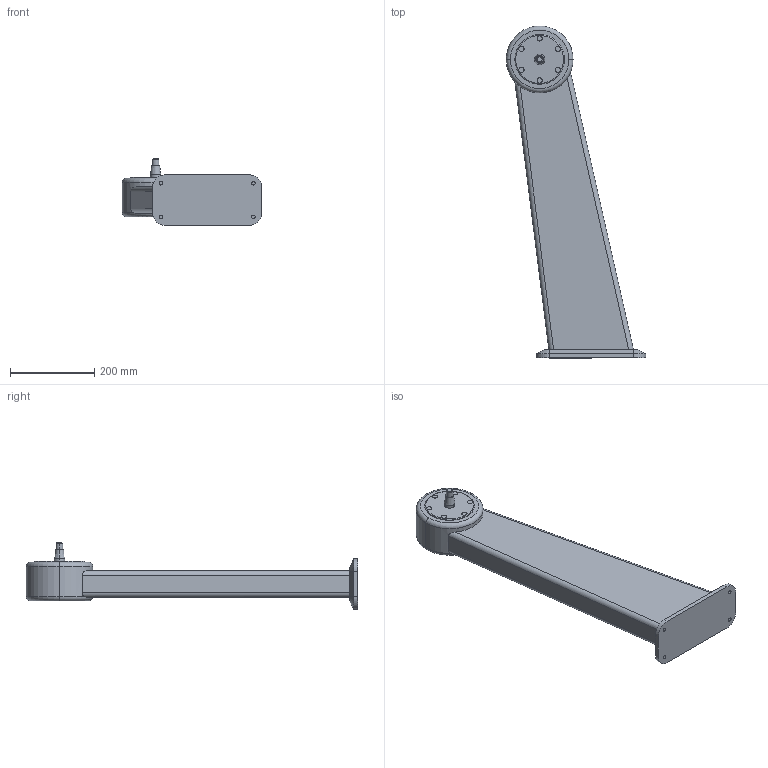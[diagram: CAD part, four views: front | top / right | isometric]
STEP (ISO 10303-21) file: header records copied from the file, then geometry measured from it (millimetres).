
FILE_DESCRIPTION (( 'STEP AP214' ), '1' );
FILE_NAME ('WP700_H710_+10.STEP', '2014-08-14T09:52:11', ( '' ), ( '' ), 'SwSTEP 2.0', 'SolidWorks 2014', '' );
FILE_SCHEMA (( 'AUTOMOTIVE_DESIGN' ));
Length unit declared in the file: millimetre
Products named in the file (1): WP700_H710_+10
Bounding box: 332.03 x 789.5 x 158.3 mm (x, y, z)
Volume: 8931429.7 mm3; surface area: 414413.2 mm2
Topology: 1 solids, 1 shells, 79 faces, 171 edges, 108 vertices
Faces by surface type: cylinder 36, plane 29, cone 8, torus 6
Entity records: 2294 total; most frequent: CARTESIAN_POINT 475, DIRECTION 408, ORIENTED_EDGE 342, EDGE_CURVE 171, AXIS2_PLACEMENT_3D 167, VERTEX_POINT 108, EDGE_LOOP 93, CIRCLE 87
